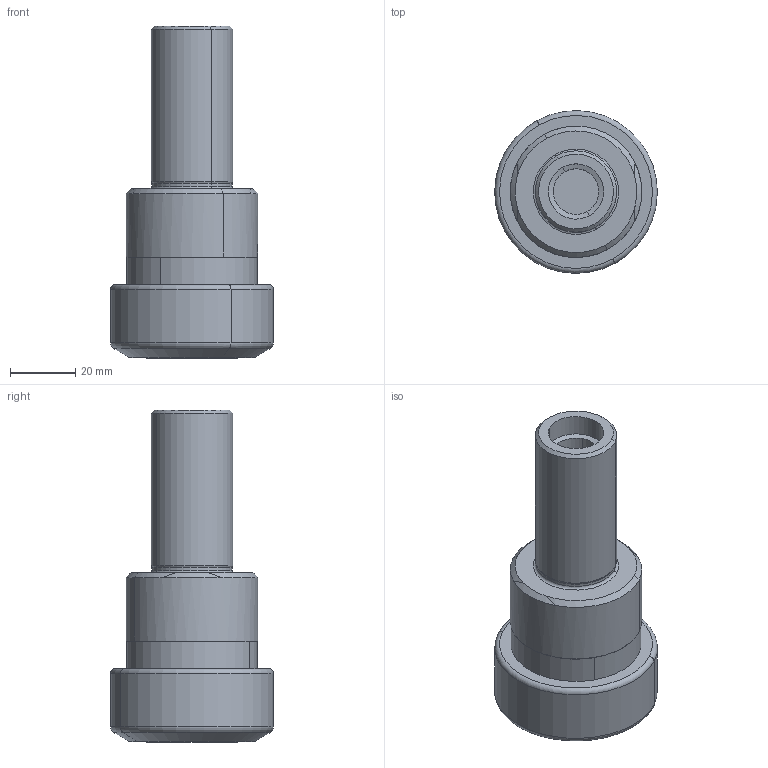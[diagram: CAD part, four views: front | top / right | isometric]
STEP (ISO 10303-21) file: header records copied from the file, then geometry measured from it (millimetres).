
FILE_DESCRIPTION(('CATIA V5 STEP','CAx-IF Rec.Pracs.--- Model Styling and Organization---1.2---2011-12-15'),'2;1');
FILE_NAME('\\nas01\drv1\utils\eitdev\rte\eit\transmagicconvert\db\out\635962170483065168\4508004 LM.stp','2016-04-14T04:51:03+00:00',('none'),('none'),'CATIA Version 5 Release 21 SP 5 (IN-10)','CATIA V5 STEP AP214','none');
FILE_SCHEMA(('AUTOMOTIVE_DESIGN { 1 0 10303 214 1 1 1 1 }'));
Length unit declared in the file: millimetre
Products named in the file (1): ST 25X 50 ER32 F
Bounding box: 49.99 x 49.99 x 102.03 mm (x, y, z)
Volume: 72458.8 mm3; surface area: 19290.4 mm2
Topology: 1 solids, 1 shells, 57 faces, 128 edges, 78 vertices
Faces by surface type: cylinder 20, cone 18, torus 10, plane 7, extrusion 2
Entity records: 1595 total; most frequent: CARTESIAN_POINT 424, ORIENTED_EDGE 256, DIRECTION 184, EDGE_CURVE 128, AXIS2_PLACEMENT_3D 112, VERTEX_POINT 78, CIRCLE 76, EDGE_LOOP 62
